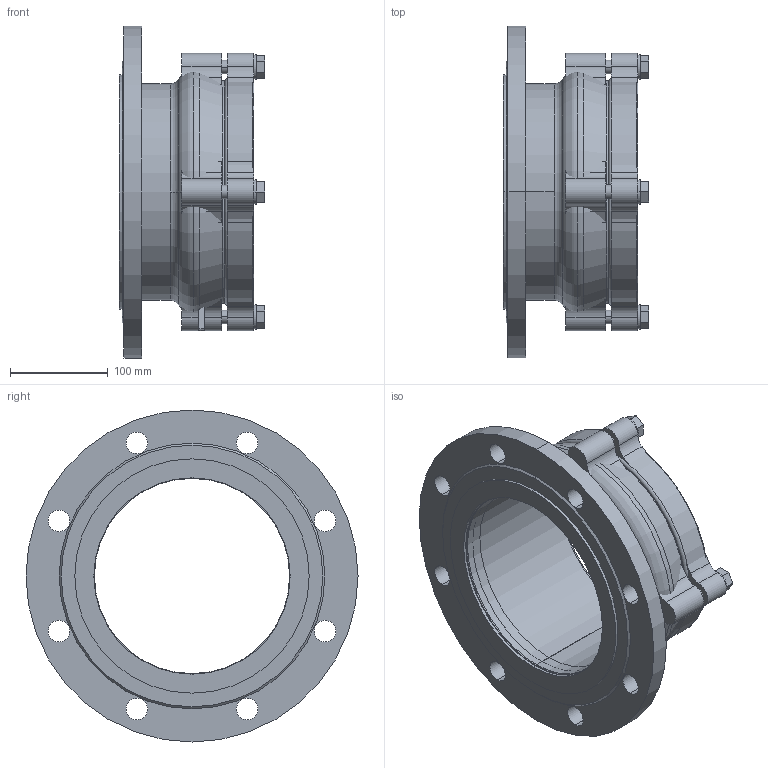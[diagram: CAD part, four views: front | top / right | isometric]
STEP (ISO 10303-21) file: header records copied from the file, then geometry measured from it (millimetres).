
FILE_DESCRIPTION(('STEP AP214'),'1');
FILE_NAME('U:/VDI-Daten/7200-(0400)/7200_PN10_DN200_200.STP','2012-06-15T10:03:26',(' '),(' '),'Spatial InterOp 3D',' ',' ');
FILE_SCHEMA(('automotive_design'));
Length unit declared in the file: millimetre
Products named in the file (27): 3D-Objekt
Bounding box: 149.3 x 340 x 340 mm (x, y, z)
Volume: 2795247.2 mm3; surface area: 685402.7 mm2
Topology: 27 solids, 27 shells, 208 faces, 458 edges, 304 vertices
Faces by surface type: plane 97, cylinder 93, torus 12, cone 6
Entity records: 8163 total; most frequent: DIRECTION 1158, CARTESIAN_POINT 997, ORIENTED_EDGE 916, AXIS2_PLACEMENT_3D 465, EDGE_CURVE 458, VERTEX_POINT 304, EDGE_LOOP 236, STYLED_ITEM 235
